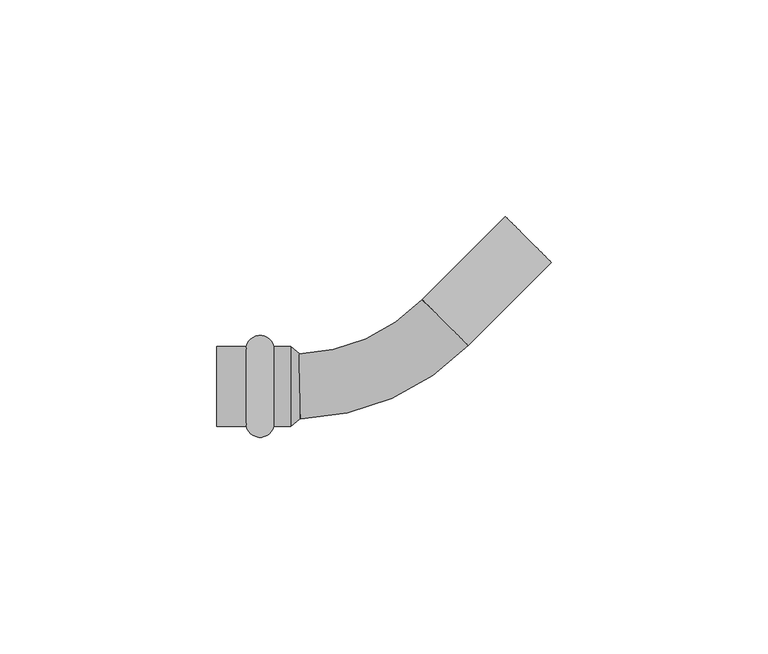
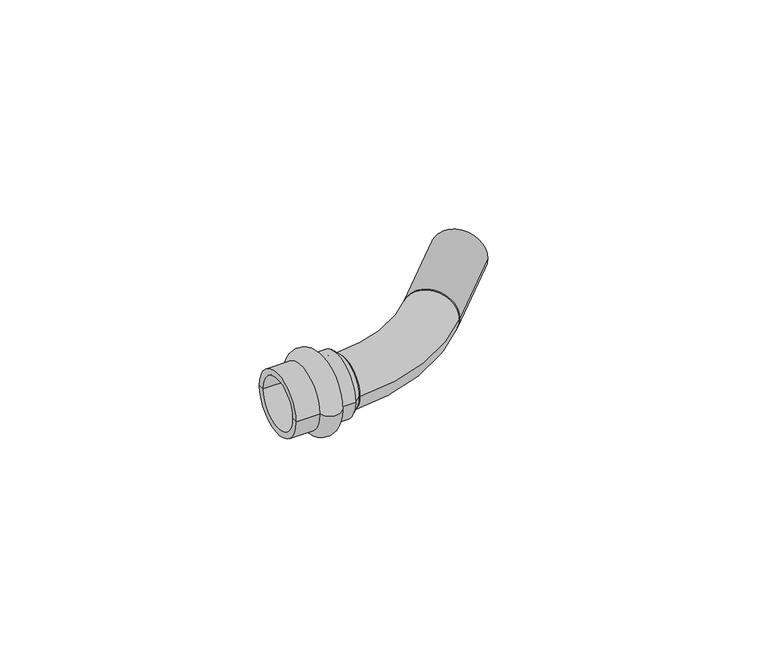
"""IFC4 building model written with IfcOpenShell, lengths in millimetres: pipe fitting geometry, VALTEC_VTi.958.I_Угольник 45° (раструб–труба) нержавеющая сталь. : VTi.958.I."""

from ifc_helpers import new_model, si_unit, point, frame, origin, origin_2d, place, context, project, spatial, polyline, circle_curve, ellipse_curve, trimmed, segment, composite_curve, outline, extrude, source, transform, mapped, element, save
from ifc_brep_helpers import plane_surface, cylinder_surface, revolved_surface, advanced_brep


def pipe_fitting_ca9367b7(model_context):
    return source(origin(), model_context, "Body", "SolidModel", [
        advanced_brep(
        [(-31.1122777, -9.25, 0.0), (-31.1122777, 9.25, 0.0), (-24.7877223, 9.25, 0.0), (-24.7877223, -9.25, 0.0), (-38.0, -9.25, 0.0), (-38.0, 9.25, 0.0), (-38.0, -7.5, 0.0), (-38.0, 7.5, 0.0), (-20.9, -7.5, 0.0), (-20.9, 7.5, 0.0), (-20.9, -9.25, 0.0), (-20.9, 9.25, 0.0)],
        [
            (0, 1, circle_curve(frame((-31.1122777, 0.0, 0.0), z_axis=(1.0, 0.0, 0.0), x_axis=(0.0, 1.0, 0.0)), 9.25)),
            (1, 2, circle_curve(frame((-27.95, 8.5, 0.0), z_axis=(0.0, 0.0, -1.0), x_axis=(1.0, 0.0, 0.0)), 3.25)),
            (2, 3, circle_curve(frame((-24.7877223, 0.0, 0.0), z_axis=(-1.0, 0.0, 0.0), x_axis=(0.0, 1.0, 0.0)), 9.25)),
            (3, 0, circle_curve(frame((-27.95, -8.5, 0.0), z_axis=(0.0, 0.0, -1.0), x_axis=(1.0, 0.0, 0.0)), 3.25)),
            (1, 0, circle_curve(frame((-31.1122777, 0.0, 0.0), z_axis=(1.0, 0.0, 0.0), x_axis=(0.0, 1.0, 0.0)), 9.25)),
            (3, 2, circle_curve(frame((-24.7877223, 0.0, 0.0), z_axis=(-1.0, 0.0, 0.0), x_axis=(0.0, 1.0, 0.0)), 9.25)),
            (4, 5, circle_curve(frame((-38.0, 0.0, 0.0), z_axis=(1.0, 0.0, 0.0), x_axis=(0.0, 1.0, 0.0)), 9.25)),
            (5, 1),
            (0, 4),
            (5, 4, circle_curve(frame((-38.0, 0.0, 0.0), z_axis=(1.0, 0.0, 0.0), x_axis=(0.0, 1.0, 0.0)), 9.25)),
            (6, 7, circle_curve(frame((-38.0, 0.0, 0.0), z_axis=(1.0, 0.0, 0.0), x_axis=(0.0, 1.0, 0.0)), 7.5)),
            (7, 5),
            (4, 6),
            (7, 6, circle_curve(frame((-38.0, 0.0, 0.0), z_axis=(1.0, 0.0, 0.0), x_axis=(0.0, 1.0, 0.0)), 7.5)),
            (8, 9, circle_curve(frame((-20.9, 0.0, 0.0), z_axis=(1.0, 0.0, 0.0), x_axis=(0.0, 1.0, 0.0)), 7.5)),
            (9, 7),
            (6, 8),
            (9, 8, circle_curve(frame((-20.9, 0.0, 0.0), z_axis=(1.0, 0.0, 0.0), x_axis=(0.0, 1.0, 0.0)), 7.5)),
            (10, 11, circle_curve(frame((-20.9, 0.0, 0.0), z_axis=(1.0, 0.0, 0.0), x_axis=(0.0, 1.0, 0.0)), 9.25)),
            (11, 9),
            (8, 10),
            (11, 10, circle_curve(frame((-20.9, 0.0, 0.0), z_axis=(1.0, 0.0, 0.0), x_axis=(0.0, 1.0, 0.0)), 9.25)),
            (2, 11),
            (10, 3),
        ],
        [
            revolved_surface(trimmed(ellipse_curve(frame((-27.95, 8.5, 0.0), z_axis=(0.0, 0.0, 1.0), x_axis=(1.0, 0.0, 0.0)), 3.25, 3.25), [point((-24.7877223, 9.25, 0.0))], [point((-31.1122777, 9.25, 0.0))], True, "CARTESIAN"), (-41.5364426, 0.0, 0.0), (-1.0, 0.0, 0.0)),
            cylinder_surface(frame((-41.5364426, 0.0, 0.0), z_axis=(-1.0, 0.0, 0.0), x_axis=(0.0, 1.0, 0.0)), 9.25),
            plane_surface(frame((-38.0, 0.0, 0.0), z_axis=(-1.0, 0.0, 0.0), x_axis=(0.0, 1.0, 0.0))),
            revolved_surface(polyline([(-38.0, 7.5, 0.0), (-20.9, 7.5, 0.0)]), (-41.5364426, 0.0, 0.0), (-1.0, 0.0, 0.0)),
            plane_surface(frame((-20.9, 0.0, 0.0), z_axis=(1.0, 0.0, 0.0), x_axis=(0.0, 1.0, 0.0))),
        ],
        [
            (0, [[1, 2, 3, 4]]),
            (0, [[5, -4, 6, -2]]),
            (1, [[7, 8, -1, 9]]),
            (1, [[10, -9, -5, -8]]),
            (2, [[11, 12, -7, 13]]),
            (2, [[14, -13, -10, -12]]),
            (3, [[15, 16, -11, 17]]),
            (3, [[18, -17, -14, -16]]),
            (4, [[19, 20, -15, 21]]),
            (4, [[22, -21, -18, -20]]),
            (1, [[-3, 23, -19, 24]]),
            (1, [[-6, -24, -22, -23]]),
        ],
    ),
        extrude(outline(composite_curve([segment(trimmed(circle_curve(origin_2d(), 7.5), [point((0.0, -7.5))], [point((0.0, 7.5))], False, "CARTESIAN"), True, "CONTINUOUS"), segment(trimmed(circle_curve(origin_2d(), 7.5), [point((0.0, 7.5))], [point((0.0, -7.5))], False, "CARTESIAN"), True, "CONTINUOUS")], self_intersect=False)), frame((14.7785317, 14.7785317, 0.0), z_axis=(0.7071067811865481, 0.7071067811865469, 0.0), x_axis=(0.0, 0.0, 1.0)), (0.0, 0.0, 1.0), 27.1),
        advanced_brep(
        [(-18.6155509, -7.4974789, 0.0), (-19.0044491, 7.4974789, 0.0), (20.1746835, 9.5697366, 0.0), (9.38238, 19.9873268, 0.0)],
        [
            (0, 1, circle_curve(frame((-18.81, 0.0, 0.0), z_axis=(-0.999663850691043, -0.025926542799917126, 0.0), x_axis=(-0.025926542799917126, 0.999663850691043, 0.0)), 7.5)),
            (1, 0, circle_curve(frame((-18.81, 0.0, 0.0), z_axis=(-0.999663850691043, -0.025926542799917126, 0.0), x_axis=(-0.025926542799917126, 0.999663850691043, 0.0)), 7.5)),
            (2, 3, circle_curve(frame((14.7785317, 14.7785317, 0.0), z_axis=(0.6945060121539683, 0.7194868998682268, 0.0), x_axis=(-0.7194868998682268, 0.6945060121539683, 0.0)), 7.5)),
            (3, 2, circle_curve(frame((14.7785317, 14.7785317, 0.0), z_axis=(0.6945060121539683, 0.7194868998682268, 0.0), x_axis=(-0.7194868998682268, 0.6945060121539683, 0.0)), 7.5)),
            (3, 1, circle_curve(frame((-20.0656002, 48.4128607, 0.0), z_axis=(0.0, 0.0, -1.0), x_axis=(0.025926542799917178, -0.999663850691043, 0.0)), 40.9291401)),
            (0, 2, circle_curve(frame((-20.0656002, 48.4128607, 0.0), z_axis=(0.0, 0.0, 1.0), x_axis=(0.025926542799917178, -0.999663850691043, 0.0)), 55.9291401)),
        ],
        [
            plane_surface(frame((-18.81, 0.0, 0.0), z_axis=(-0.9996638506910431, -0.02592654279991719, 0.0), x_axis=(0.0, 0.0, 1.0))),
            plane_surface(frame((14.7785317, 14.7785317, 0.0), z_axis=(0.6945060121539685, 0.7194868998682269, 0.0), x_axis=(0.0, 0.0, 1.0))),
            revolved_surface(trimmed(ellipse_curve(frame((-18.81, 0.0, 0.0), z_axis=(-0.999663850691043, -0.025926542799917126, 0.0), x_axis=(-0.025926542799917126, 0.999663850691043, 0.0)), 7.5, 7.5), [point((-18.6155509, -7.4974789, 0.0))], [point((-19.0044491, 7.4974789, 0.0))], True, "CARTESIAN"), (-20.0656002, 48.4128607, 0.0), (0.0, 0.0, 1.0)),
            revolved_surface(trimmed(ellipse_curve(frame((-18.81, 0.0, 0.0), z_axis=(-0.999663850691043, -0.025926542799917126, 0.0), x_axis=(-0.025926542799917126, 0.999663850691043, 0.0)), 7.5, 7.5), [point((-19.0044491, 7.4974789, 0.0))], [point((-18.6155509, -7.4974789, 0.0))], True, "CARTESIAN"), (-20.0656002, 48.4128607, 0.0), (0.0, 0.0, 1.0)),
        ],
        [
            (0, [[1, 2]]),
            (1, [[3, 4]]),
            (2, [[5, -1, 6, -4]]),
            (3, [[-6, -2, -5, -3]]),
        ],
    ),
        advanced_brep(
        [(-20.9, -9.25, 0.0), (-20.9, 9.25, 0.0), (-18.81, -7.5, 0.0), (-18.81, 7.5, 0.0)],
        [
            (0, 1, circle_curve(frame((-20.9, 0.0, 0.0), z_axis=(-1.0, 0.0, 0.0), x_axis=(0.0, -1.0, 0.0)), 9.25)),
            (1, 0, circle_curve(frame((-20.9, 0.0, 0.0), z_axis=(-1.0, 0.0, 0.0), x_axis=(0.0, 1.0, 0.0)), 9.25)),
            (2, 3, circle_curve(frame((-18.81, 0.0, 0.0), z_axis=(1.0, 0.0, 0.0), x_axis=(0.0, 1.0, 0.0)), 7.5)),
            (3, 2, circle_curve(frame((-18.81, 0.0, 0.0), z_axis=(1.0, 0.0, 0.0), x_axis=(0.0, -1.0, 0.0)), 7.5)),
            (2, 0),
            (1, 3),
        ],
        [
            plane_surface(frame((-20.9, 0.0, 0.0), z_axis=(-1.0, 0.0, 0.0), x_axis=(0.0, 0.0, -1.0))),
            plane_surface(frame((-18.81, 0.0, 0.0), z_axis=(1.0, 0.0, 0.0), x_axis=(0.0, 0.0, -1.0))),
            revolved_surface(polyline([(-18.81, -7.500000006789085, 0.0), (-20.9, -9.25, 0.0)]), (-9.8528571, 0.0, 0.0), (-1.0, 0.0, 0.0)),
            revolved_surface(polyline([(-18.81, 7.500000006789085, 0.0), (-20.9, 9.25, 0.0)]), (-9.8528571, 0.0, 0.0), (-1.0, 0.0, 0.0)),
        ],
        [
            (0, [[1, 2]]),
            (1, [[3, 4]]),
            (2, [[-3, 5, -2, 6]]),
            (3, [[-4, -6, -1, -5]]),
        ],
    ),
    ])


if __name__ == "__main__":
    model = new_model("IFC4")
    model_context = context("Model", 3, world=origin())
    ifc_project = project(units=[si_unit("LENGTHUNIT", "METRE", prefix="MILLI")], contexts=[model_context])
    site = spatial("IfcSite", under=ifc_project)
    building = spatial("IfcBuilding", under=site)
    placement = place(None, origin())
    pipe_fitting_shape = pipe_fitting_ca9367b7(model_context)
    element("IfcPipeFitting", 1, ObjectType="VALTEC_VTi.958.I_Угольник 45° (раструб–труба) нержавеющая сталь. : VTi.958.I", at=placement, inside=building, context=model_context, shape_type="MappedRepresentation", body=[
        mapped(pipe_fitting_shape, transform((0.0, 0.0, 0.0), x_axis=(1.0, 0.0, 0.0), y_axis=(0.0, 1.0, 0.0), z_axis=(0.0, 0.0, 1.0))),
    ])
    save(model, "model.ifc")
